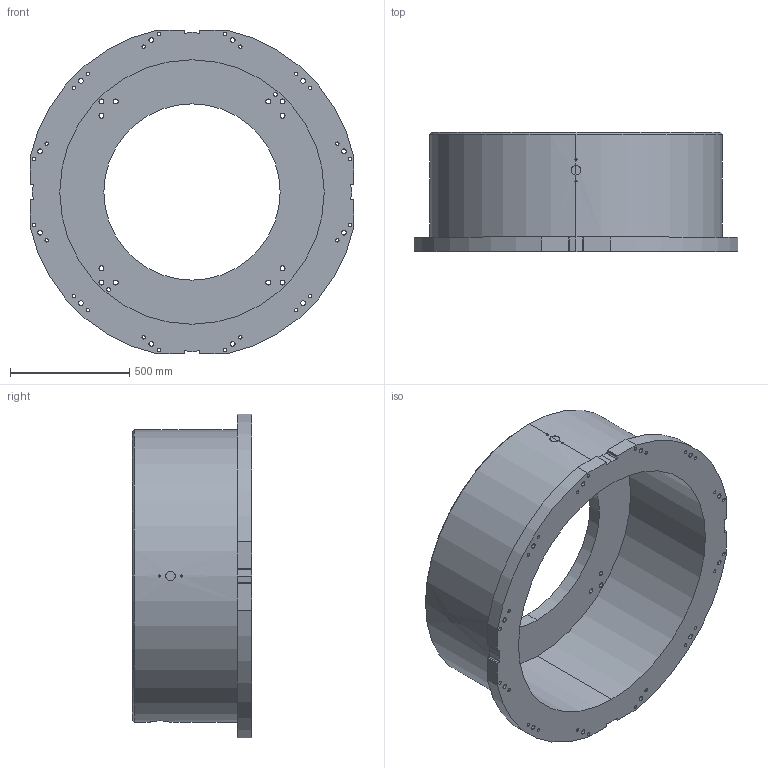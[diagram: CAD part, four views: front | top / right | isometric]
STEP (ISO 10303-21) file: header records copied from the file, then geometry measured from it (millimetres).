
FILE_DESCRIPTION (( 'STEP AP214' ), '1' );
FILE_NAME ('T-500.STEP', '2024-01-24T12:19:44', ( '' ), ( '' ), 'SwSTEP 2.0', 'SolidWorks 2022', '' );
FILE_SCHEMA (( 'AUTOMOTIVE_DESIGN' ));
Length unit declared in the file: millimetre
Products named in the file (1): T-500
Bounding box: 1360 x 500 x 1360 mm (x, y, z)
Volume: 158401332.3 mm3; surface area: 5908815.7 mm2
Topology: 1 solids, 1 shells, 210 faces, 592 edges, 394 vertices
Faces by surface type: cylinder 164, plane 28, bspline 16, cone 2
Entity records: 11390 total; most frequent: CARTESIAN_POINT 4674, ORIENTED_EDGE 1184, DIRECTION 1128, EDGE_CURVE 592, AXIS2_PLACEMENT_3D 449, VERTEX_POINT 394, EDGE_LOOP 322, CIRCLE 254
